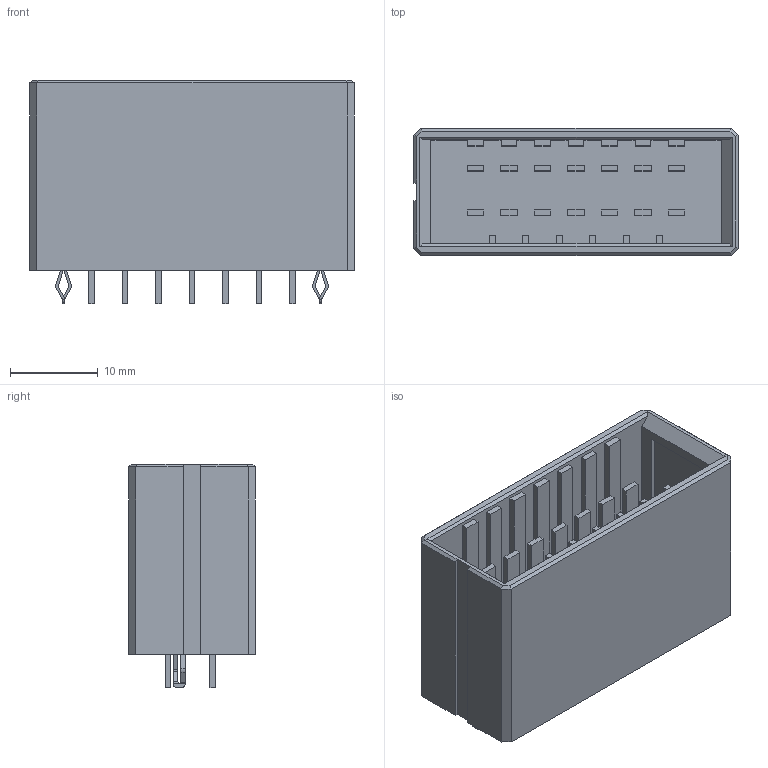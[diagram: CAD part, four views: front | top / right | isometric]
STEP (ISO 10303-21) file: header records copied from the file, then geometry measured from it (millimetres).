
FILE_DESCRIPTION(/* description */ (''),/* implementation_level */ '2;1');
FILE_NAME(/* name */ 'E:\工作文件\3D文件\华灿系列\3810系列\HC-3810-2x8A-X-X（双排 直针-HCTL）.stp',/* time_stamp */ '2023-09-25T17:27:50+08:00',/* author */ ('admin'),/* organization */ (''),/* preprocessor_version */ 'ST-DEVELOPER v18.1',/* originating_system */ 'Autodesk Inventor 2021',/* authorisation */ '');
FILE_SCHEMA (('AUTOMOTIVE_DESIGN { 1 0 10303 214 3 1 1 }'));
Length unit declared in the file: millimetre
Products named in the file (1): HC-3810-2x5NA-X-X（双排 直针-
HCTL）
Bounding box: 36.86 x 14.43 x 25.4 mm (x, y, z)
Volume: 5254.3 mm3; surface area: 6027.4 mm2
Topology: 1 solids, 1 shells, 292 faces, 769 edges, 508 vertices
Faces by surface type: plane 266, cylinder 26
Entity records: 8956 total; most frequent: CARTESIAN_POINT 1644, ORIENTED_EDGE 1538, DIRECTION 1395, EDGE_CURVE 769, LINE 713, VECTOR 713, VERTEX_POINT 508, AXIS2_PLACEMENT_3D 341
